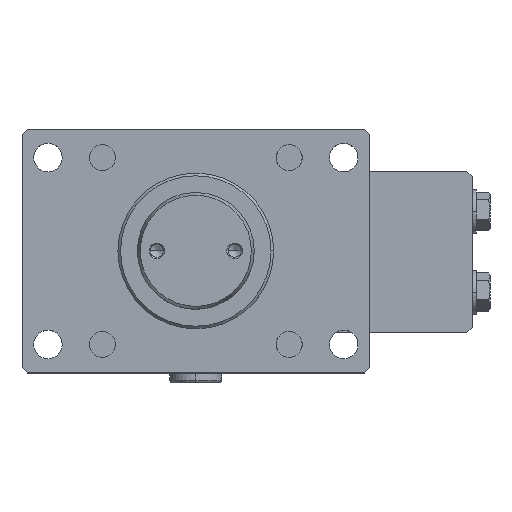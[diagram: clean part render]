
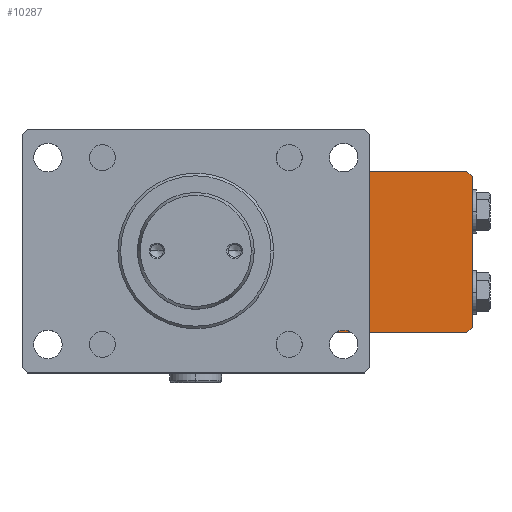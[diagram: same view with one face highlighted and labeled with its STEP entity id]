
A CAD part, top view. The second image highlights one B-rep face of the part: STEP entity #10287.
In plain terms, the highlighted planar face has unit normal (0, 0, 1).
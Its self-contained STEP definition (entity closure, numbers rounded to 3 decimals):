
#481 = DIRECTION ( 'NONE',  ( -1., 0., 0. ) ) ;
#506 = EDGE_CURVE ( 'NONE', #2060, #5842, #8661, .T. ) ;
#560 = VERTEX_POINT ( 'NONE', #7627 ) ;
#637 = CARTESIAN_POINT ( 'NONE',  ( 44.5, 29., -187.4 ) ) ;
#718 = AXIS2_PLACEMENT_3D ( 'NONE', #6971, #9675, #4387 ) ;
#733 = VERTEX_POINT ( 'NONE', #8460 ) ;
#1187 = EDGE_CURVE ( 'NONE', #2060, #5776, #3952, .T. ) ;
#1406 = CARTESIAN_POINT ( 'NONE',  ( 44.5, -29., -187.4 ) ) ;
#1438 = ORIENTED_EDGE ( 'NONE', *, *, #4708, .F. ) ;
#1761 = LINE ( 'NONE', #7773, #8494 ) ;
#1863 = DIRECTION ( 'NONE',  ( -1., 0., 0. ) ) ;
#1945 = ORIENTED_EDGE ( 'NONE', *, *, #10032, .T. ) ;
#1968 = DIRECTION ( 'NONE',  ( -0.707, 0.707, 0. ) ) ;
#2060 = VERTEX_POINT ( 'NONE', #637 ) ;
#2587 = LINE ( 'NONE', #6279, #9365 ) ;
#2589 = ORIENTED_EDGE ( 'NONE', *, *, #8566, .T. ) ;
#2770 = LINE ( 'NONE', #8105, #5114 ) ;
#2830 = CARTESIAN_POINT ( 'NONE',  ( 106.5, 31., -187.4 ) ) ;
#3131 = CARTESIAN_POINT ( 'NONE',  ( 106.5, -31., -187.4 ) ) ;
#3207 = EDGE_CURVE ( 'NONE', #733, #5842, #8855, .T. ) ;
#3357 = DIRECTION ( 'NONE',  ( 0.707, 0.707, 0. ) ) ;
#3658 = CARTESIAN_POINT ( 'NONE',  ( 46.5, -31., -187.4 ) ) ;
#3703 = EDGE_LOOP ( 'NONE', ( #6498, #1438, #6692, #2589, #9741, #1945, #9619, #5209 ) ) ;
#3934 = LINE ( 'NONE', #9778, #10454 ) ;
#3952 = LINE ( 'NONE', #4781, #10762 ) ;
#4163 = FACE_OUTER_BOUND ( 'NONE', #3703, .T. ) ;
#4348 = PLANE ( 'NONE',  #718 ) ;
#4387 = DIRECTION ( 'NONE',  ( -1., 0., 0. ) ) ;
#4708 = EDGE_CURVE ( 'NONE', #11206, #5776, #2587, .T. ) ;
#4781 = CARTESIAN_POINT ( 'NONE',  ( 44.5, -31., -187.4 ) ) ;
#4795 = DIRECTION ( 'NONE',  ( 0., -1., 0. ) ) ;
#5114 = VECTOR ( 'NONE', #1968, 1000. ) ;
#5209 = ORIENTED_EDGE ( 'NONE', *, *, #506, .F. ) ;
#5776 = VERTEX_POINT ( 'NONE', #1406 ) ;
#5783 = DIRECTION ( 'NONE',  ( 0., -1., 0. ) ) ;
#5842 = VERTEX_POINT ( 'NONE', #10266 ) ;
#6099 = DIRECTION ( 'NONE',  ( -0.707, 0.707, 0. ) ) ;
#6260 = VECTOR ( 'NONE', #7306, 1000. ) ;
#6279 = CARTESIAN_POINT ( 'NONE',  ( 44.5, -29., -187.4 ) ) ;
#6444 = VECTOR ( 'NONE', #481, 1000. ) ;
#6498 = ORIENTED_EDGE ( 'NONE', *, *, #1187, .T. ) ;
#6604 = EDGE_CURVE ( 'NONE', #7817, #11206, #3934, .T. ) ;
#6692 = ORIENTED_EDGE ( 'NONE', *, *, #6604, .F. ) ;
#6971 = CARTESIAN_POINT ( 'NONE',  ( 106.5, -31., -187.4 ) ) ;
#7227 = CARTESIAN_POINT ( 'NONE',  ( 44.5, 29., -187.4 ) ) ;
#7306 = DIRECTION ( 'NONE',  ( 0.707, 0.707, 0. ) ) ;
#7627 = CARTESIAN_POINT ( 'NONE',  ( 106.5, -29., -187.4 ) ) ;
#7773 = CARTESIAN_POINT ( 'NONE',  ( 106.5, -29., -187.4 ) ) ;
#7817 = VERTEX_POINT ( 'NONE', #7902 ) ;
#7902 = CARTESIAN_POINT ( 'NONE',  ( 104.5, -31., -187.4 ) ) ;
#8105 = CARTESIAN_POINT ( 'NONE',  ( 106.5, 29., -187.4 ) ) ;
#8460 = CARTESIAN_POINT ( 'NONE',  ( 104.5, 31., -187.4 ) ) ;
#8494 = VECTOR ( 'NONE', #3357, 1000. ) ;
#8566 = EDGE_CURVE ( 'NONE', #7817, #560, #1761, .T. ) ;
#8661 = LINE ( 'NONE', #7227, #6260 ) ;
#8855 = LINE ( 'NONE', #2830, #6444 ) ;
#8906 = LINE ( 'NONE', #3131, #10990 ) ;
#9312 = EDGE_CURVE ( 'NONE', #11018, #560, #8906, .T. ) ;
#9365 = VECTOR ( 'NONE', #6099, 1000. ) ;
#9619 = ORIENTED_EDGE ( 'NONE', *, *, #3207, .T. ) ;
#9675 = DIRECTION ( 'NONE',  ( 0., 0., -1. ) ) ;
#9741 = ORIENTED_EDGE ( 'NONE', *, *, #9312, .F. ) ;
#9778 = CARTESIAN_POINT ( 'NONE',  ( 106.5, -31., -187.4 ) ) ;
#10032 = EDGE_CURVE ( 'NONE', #11018, #733, #2770, .T. ) ;
#10266 = CARTESIAN_POINT ( 'NONE',  ( 46.5, 31., -187.4 ) ) ;
#10287 = ADVANCED_FACE ( 'NONE', ( #4163 ), #4348, .F. ) ;
#10454 = VECTOR ( 'NONE', #1863, 1000. ) ;
#10762 = VECTOR ( 'NONE', #4795, 1000. ) ;
#10990 = VECTOR ( 'NONE', #5783, 1000. ) ;
#11018 = VERTEX_POINT ( 'NONE', #11239 ) ;
#11206 = VERTEX_POINT ( 'NONE', #3658 ) ;
#11239 = CARTESIAN_POINT ( 'NONE',  ( 106.5, 29., -187.4 ) ) ;
